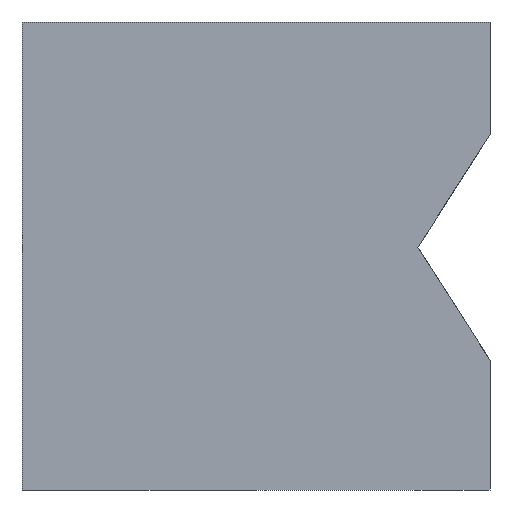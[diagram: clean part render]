
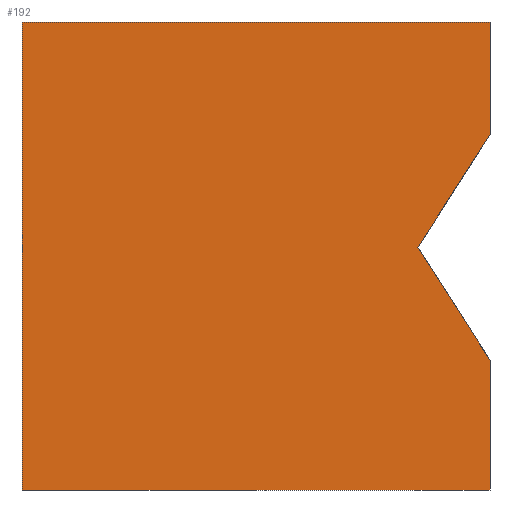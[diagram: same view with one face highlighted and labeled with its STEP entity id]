
A CAD part, left-side view. The second image highlights one B-rep face of the part: STEP entity #192.
In plain terms, the highlighted planar face has unit normal (-1, 0, 0).
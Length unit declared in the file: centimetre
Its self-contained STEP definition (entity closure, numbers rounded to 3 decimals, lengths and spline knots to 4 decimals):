
#4 = DIRECTION ( 'NONE',  ( 0., -1., 0. ) ) ;
#8 = VERTEX_POINT ( 'NONE', #220 ) ;
#18 = VERTEX_POINT ( 'NONE', #331 ) ;
#32 = FACE_OUTER_BOUND ( 'NONE', #347, .T. ) ;
#36 = CARTESIAN_POINT ( 'NONE',  ( 0., 1000., 0. ) ) ;
#38 = CARTESIAN_POINT ( 'NONE',  ( 0., 0., 277.4822 ) ) ;
#51 = DIRECTION ( 'NONE',  ( 0., 0., -1. ) ) ;
#59 = CARTESIAN_POINT ( 'NONE',  ( 0., 1000., 0. ) ) ;
#82 = LINE ( 'NONE', #669, #448 ) ;
#95 = DIRECTION ( 'NONE',  ( 0., 0.538, 0.843 ) ) ;
#103 = LINE ( 'NONE', #565, #667 ) ;
#128 = LINE ( 'NONE', #536, #317 ) ;
#129 = VERTEX_POINT ( 'NONE', #36 ) ;
#144 = LINE ( 'NONE', #38, #365 ) ;
#153 = CARTESIAN_POINT ( 'NONE',  ( 0., 0., 1000. ) ) ;
#165 = ORIENTED_EDGE ( 'NONE', *, *, #211, .T. ) ;
#192 = ADVANCED_FACE ( 'NONE', ( #32 ), #609, .F. ) ;
#211 = EDGE_CURVE ( 'NONE', #18, #335, #144, .T. ) ;
#214 = CARTESIAN_POINT ( 'NONE',  ( 0., 0., 759.9324 ) ) ;
#219 = AXIS2_PLACEMENT_3D ( 'NONE', #359, #614, #532 ) ;
#220 = CARTESIAN_POINT ( 'NONE',  ( 0., 1000., 1000. ) ) ;
#242 = DIRECTION ( 'NONE',  ( 0., -0.538, 0.843 ) ) ;
#257 = DIRECTION ( 'NONE',  ( 0., 0., -1. ) ) ;
#258 = DIRECTION ( 'NONE',  ( 0., -1., 0. ) ) ;
#275 = CARTESIAN_POINT ( 'NONE',  ( 0., 0., 0. ) ) ;
#276 = EDGE_CURVE ( 'NONE', #129, #647, #580, .T. ) ;
#277 = ORIENTED_EDGE ( 'NONE', *, *, #356, .T. ) ;
#302 = ORIENTED_EDGE ( 'NONE', *, *, #276, .T. ) ;
#306 = EDGE_CURVE ( 'NONE', #335, #650, #596, .T. ) ;
#311 = EDGE_CURVE ( 'NONE', #18, #647, #128, .T. ) ;
#317 = VECTOR ( 'NONE', #257, 100. ) ;
#331 = CARTESIAN_POINT ( 'NONE',  ( 0., 0., 277.4822 ) ) ;
#332 = EDGE_CURVE ( 'NONE', #571, #650, #426, .T. ) ;
#335 = VERTEX_POINT ( 'NONE', #526 ) ;
#347 = EDGE_LOOP ( 'NONE', ( #165, #709, #656, #687, #277, #302, #528 ) ) ;
#356 = EDGE_CURVE ( 'NONE', #8, #129, #103, .T. ) ;
#359 = CARTESIAN_POINT ( 'NONE',  ( 0., 1000., 1000. ) ) ;
#365 = VECTOR ( 'NONE', #95, 100. ) ;
#384 = EDGE_CURVE ( 'NONE', #8, #571, #82, .T. ) ;
#426 = LINE ( 'NONE', #608, #645 ) ;
#448 = VECTOR ( 'NONE', #258, 100. ) ;
#482 = DIRECTION ( 'NONE',  ( 0., 0., -1. ) ) ;
#485 = VECTOR ( 'NONE', #242, 100. ) ;
#526 = CARTESIAN_POINT ( 'NONE',  ( 0., 154.0233, 518.7073 ) ) ;
#528 = ORIENTED_EDGE ( 'NONE', *, *, #311, .F. ) ;
#532 = DIRECTION ( 'NONE',  ( 0., 0., -1. ) ) ;
#536 = CARTESIAN_POINT ( 'NONE',  ( 0., 0., 1000. ) ) ;
#565 = CARTESIAN_POINT ( 'NONE',  ( 0., 1000., 1000. ) ) ;
#571 = VERTEX_POINT ( 'NONE', #153 ) ;
#580 = LINE ( 'NONE', #59, #734 ) ;
#596 = LINE ( 'NONE', #664, #485 ) ;
#608 = CARTESIAN_POINT ( 'NONE',  ( 0., 0., 1000. ) ) ;
#609 = PLANE ( 'NONE',  #219 ) ;
#614 = DIRECTION ( 'NONE',  ( 1., 0., 0. ) ) ;
#645 = VECTOR ( 'NONE', #482, 100. ) ;
#647 = VERTEX_POINT ( 'NONE', #275 ) ;
#650 = VERTEX_POINT ( 'NONE', #214 ) ;
#656 = ORIENTED_EDGE ( 'NONE', *, *, #332, .F. ) ;
#664 = CARTESIAN_POINT ( 'NONE',  ( 0., 154.0233, 518.7073 ) ) ;
#667 = VECTOR ( 'NONE', #51, 100. ) ;
#669 = CARTESIAN_POINT ( 'NONE',  ( 0., 1000., 1000. ) ) ;
#687 = ORIENTED_EDGE ( 'NONE', *, *, #384, .F. ) ;
#709 = ORIENTED_EDGE ( 'NONE', *, *, #306, .T. ) ;
#734 = VECTOR ( 'NONE', #4, 100. ) ;
